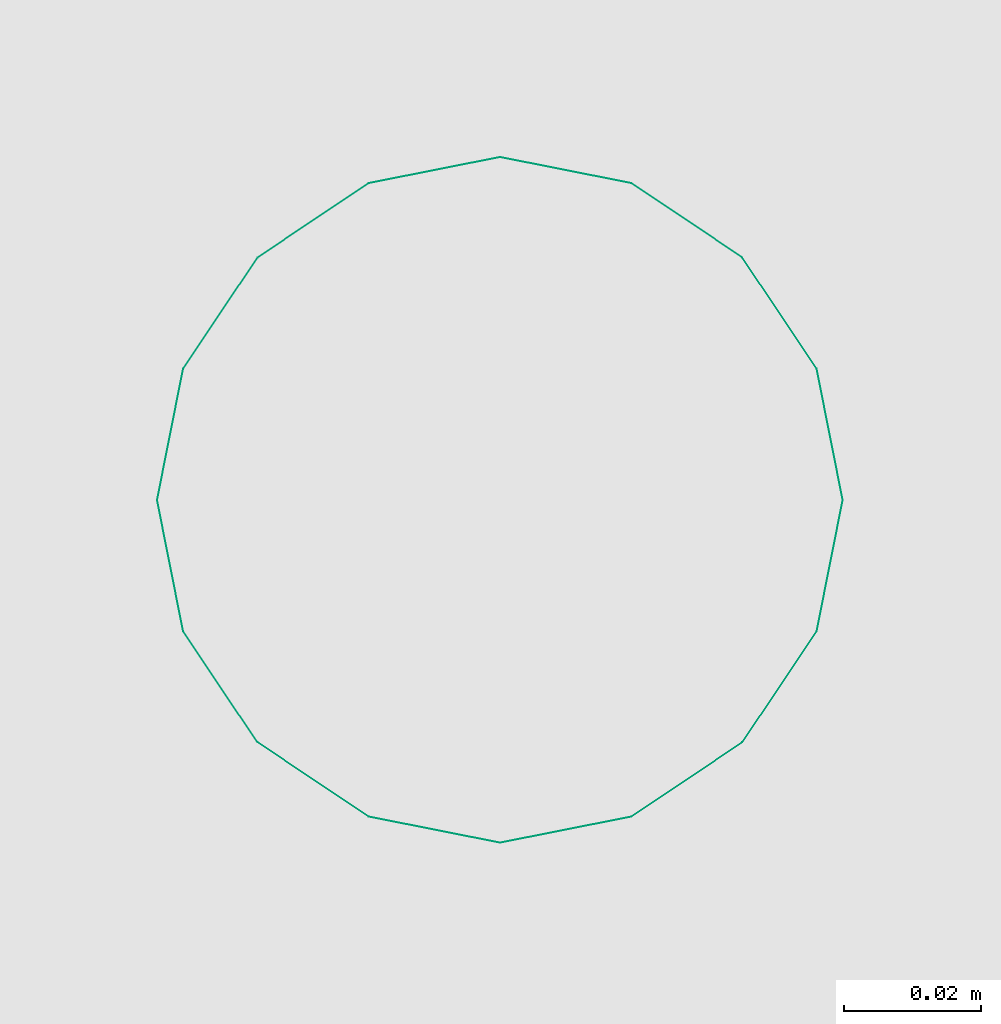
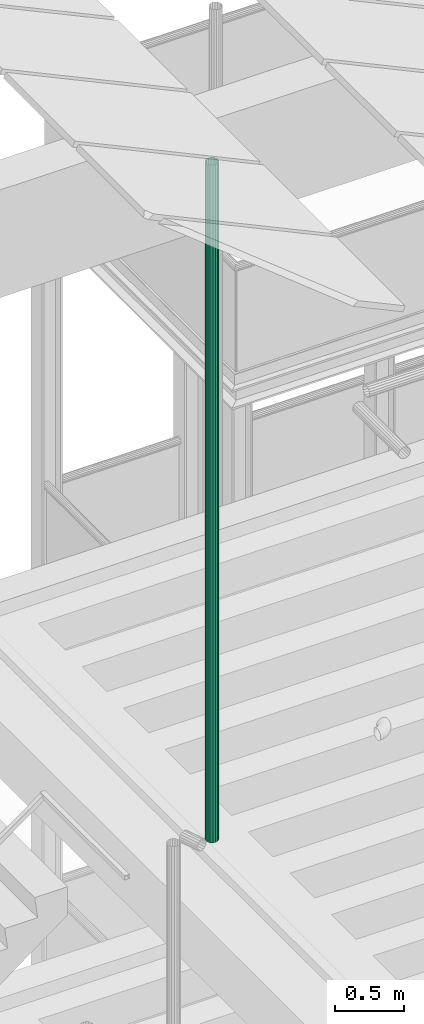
# One storey, part 59 of 108: 1 flow segment.
"""IFC2X3 building model written with IfcOpenShell, lengths in metres."""

from ifc_helpers import new_model, entity, si_unit, converted_unit, derived_unit, money_unit, direction, frame, origin_with_axes, place, context, subcontext, project, spatial, faceted_brep, material, type_object, element, save


model = new_model("IFC2X3")

# Units and contexts
model_context = context("Model", 3, precision=1e-05, world=origin_with_axes(), true_north=direction((0.0, 1.0)))
body_context = subcontext(model_context, "Body", "Model", "MODEL_VIEW", scale=1.0)
ifc_project = project(units=[si_unit("LENGTHUNIT", "METRE"), si_unit("AREAUNIT", "SQUARE_METRE"), si_unit("VOLUMEUNIT", "CUBIC_METRE"), si_unit("ABSORBEDDOSEUNIT", "GRAY"), si_unit("AMOUNTOFSUBSTANCEUNIT", "MOLE"), si_unit("DOSEEQUIVALENTUNIT", "SIEVERT"), si_unit("ELECTRICCAPACITANCEUNIT", "FARAD"), si_unit("ELECTRICCHARGEUNIT", "COULOMB"), si_unit("ELECTRICCONDUCTANCEUNIT", "SIEMENS"), si_unit("ELECTRICCURRENTUNIT", "AMPERE"), si_unit("ELECTRICRESISTANCEUNIT", "OHM"), si_unit("ELECTRICVOLTAGEUNIT", "VOLT"), si_unit("ENERGYUNIT", "JOULE"), si_unit("FORCEUNIT", "NEWTON"), si_unit("FREQUENCYUNIT", "HERTZ"), si_unit("ILLUMINANCEUNIT", "LUX"), si_unit("INDUCTANCEUNIT", "HENRY"), si_unit("LUMINOUSFLUXUNIT", "LUMEN"), si_unit("LUMINOUSINTENSITYUNIT", "CANDELA"), si_unit("MAGNETICFLUXDENSITYUNIT", "TESLA"), si_unit("MAGNETICFLUXUNIT", "WEBER"), si_unit("MASSUNIT", "GRAM"), converted_unit("PLANEANGLEUNIT", "degree", entity("IfcReal", 0.0174532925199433), si_unit("PLANEANGLEUNIT", "RADIAN"), dimensions=[0, 0, 0, 0, 0, 0, 0]), si_unit("POWERUNIT", "WATT"), si_unit("PRESSUREUNIT", "PASCAL"), si_unit("RADIOACTIVITYUNIT", "BECQUEREL"), si_unit("SOLIDANGLEUNIT", "STERADIAN"), si_unit("THERMODYNAMICTEMPERATUREUNIT", "KELVIN"), si_unit("TIMEUNIT", "SECOND"), derived_unit("ACCELERATIONUNIT", [(si_unit("LENGTHUNIT", "METRE"), 1), (si_unit("TIMEUNIT", "SECOND"), -2)]), derived_unit("ANGULARVELOCITYUNIT", [(converted_unit("PLANEANGLEUNIT", "degree", entity("IfcReal", 0.0174532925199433), si_unit("PLANEANGLEUNIT", "RADIAN"), dimensions=[0, 0, 0, 0, 0, 0, 0]), 1), (si_unit("TIMEUNIT", "SECOND"), -1)]), derived_unit("CURVATUREUNIT", [(converted_unit("PLANEANGLEUNIT", "degree", entity("IfcReal", 0.0174532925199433), si_unit("PLANEANGLEUNIT", "RADIAN"), dimensions=[0, 0, 0, 0, 0, 0, 0]), 1), (si_unit("LENGTHUNIT", "METRE"), -1)]), derived_unit("DYNAMICVISCOSITYUNIT", [(si_unit("PRESSUREUNIT", "PASCAL"), 1), (si_unit("TIMEUNIT", "SECOND"), 1)]), derived_unit("HEATFLUXDENSITYUNIT", [(si_unit("POWERUNIT", "WATT"), 1), (si_unit("LENGTHUNIT", "METRE"), -2)]), derived_unit("HEATINGVALUEUNIT", [(si_unit("ENERGYUNIT", "JOULE"), 1), (si_unit("MASSUNIT", "GRAM"), -1)]), derived_unit("INTEGERCOUNTRATEUNIT", [(si_unit("TIMEUNIT", "SECOND"), -1)]), derived_unit("IONCONCENTRATIONUNIT", [(si_unit("MASSUNIT", "GRAM"), 1), (si_unit("VOLUMEUNIT", "CUBIC_METRE"), -1)]), derived_unit("ISOTHERMALMOISTURECAPACITYUNIT", [(si_unit("VOLUMEUNIT", "CUBIC_METRE"), 1), (si_unit("MASSUNIT", "GRAM"), -1)]), derived_unit("KINEMATICVISCOSITYUNIT", [(si_unit("AREAUNIT", "SQUARE_METRE"), 1), (si_unit("TIMEUNIT", "SECOND"), -1)]), derived_unit("LINEARFORCEUNIT", [(si_unit("FORCEUNIT", "NEWTON"), 1), (si_unit("LENGTHUNIT", "METRE"), -1)]), derived_unit("LINEARMOMENTUNIT", [(si_unit("FORCEUNIT", "NEWTON"), 1), (si_unit("LENGTHUNIT", "METRE"), -1)]), derived_unit("LINEARSTIFFNESSUNIT", [(si_unit("FORCEUNIT", "NEWTON"), 1), (si_unit("LENGTHUNIT", "METRE"), -1)]), derived_unit("LINEARVELOCITYUNIT", [(si_unit("LENGTHUNIT", "METRE"), 1), (si_unit("TIMEUNIT", "SECOND"), -1)]), derived_unit("LUMINOUSINTENSITYDISTRIBUTIONUNIT", [(si_unit("LUMINOUSINTENSITYUNIT", "CANDELA"), 1), (si_unit("LUMINOUSFLUXUNIT", "LUMEN"), -1)]), derived_unit("MASSDENSITYUNIT", [(si_unit("MASSUNIT", "GRAM"), 1), (si_unit("VOLUMEUNIT", "CUBIC_METRE"), -1)]), derived_unit("MASSFLOWRATEUNIT", [(si_unit("MASSUNIT", "GRAM"), 1), (si_unit("TIMEUNIT", "SECOND"), -1)]), derived_unit("MASSPERLENGTHUNIT", [(si_unit("MASSUNIT", "GRAM"), 1), (si_unit("LENGTHUNIT", "METRE"), -1)]), derived_unit("MODULUSOFELASTICITYUNIT", [(si_unit("FORCEUNIT", "NEWTON"), 1), (si_unit("AREAUNIT", "SQUARE_METRE"), -1)]), derived_unit("MODULUSOFLINEARSUBGRADEREACTIONUNIT", [(si_unit("FORCEUNIT", "NEWTON"), 1), (si_unit("LENGTHUNIT", "METRE"), -2)]), derived_unit("MODULUSOFROTATIONALSUBGRADEREACTIONUNIT", [(si_unit("FORCEUNIT", "NEWTON"), 1), (si_unit("LENGTHUNIT", "METRE"), 1)]), derived_unit("MODULUSOFSUBGRADEREACTIONUNIT", [(si_unit("FORCEUNIT", "NEWTON"), 1), (si_unit("VOLUMEUNIT", "CUBIC_METRE"), -1)]), derived_unit("MOISTUREDIFFUSIVITYUNIT", [(si_unit("VOLUMEUNIT", "CUBIC_METRE"), 1), (si_unit("TIMEUNIT", "SECOND"), -1)]), derived_unit("MOLECULARWEIGHTUNIT", [(si_unit("MASSUNIT", "GRAM"), 1), (si_unit("AMOUNTOFSUBSTANCEUNIT", "MOLE"), -1)]), derived_unit("PLANARFORCEUNIT", [(si_unit("FORCEUNIT", "NEWTON"), 1), (si_unit("LENGTHUNIT", "METRE"), -2)]), derived_unit("ROTATIONALFREQUENCYUNIT", [(si_unit("TIMEUNIT", "SECOND"), -1)]), derived_unit("ROTATIONALMASSUNIT", [(si_unit("MASSUNIT", "GRAM"), 1), (si_unit("LENGTHUNIT", "METRE"), 2)]), derived_unit("ROTATIONALSTIFFNESSUNIT", [(si_unit("FORCEUNIT", "NEWTON"), 1), (si_unit("LENGTHUNIT", "METRE"), 1), (converted_unit("PLANEANGLEUNIT", "degree", entity("IfcReal", 0.0174532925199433), si_unit("PLANEANGLEUNIT", "RADIAN"), dimensions=[0, 0, 0, 0, 0, 0, 0]), -1)]), derived_unit("SECTIONAREAINTEGRALUNIT", [(si_unit("LENGTHUNIT", "METRE"), 5)]), derived_unit("SECTIONMODULUSUNIT", [(si_unit("LENGTHUNIT", "METRE"), 3)]), derived_unit("SHEARMODULUSUNIT", [(si_unit("FORCEUNIT", "NEWTON"), 1), (si_unit("AREAUNIT", "SQUARE_METRE"), -1)]), derived_unit("SOUNDPOWERUNIT", [(si_unit("ENERGYUNIT", "JOULE"), 1), (si_unit("TIMEUNIT", "SECOND"), -1)]), derived_unit("SPECIFICHEATCAPACITYUNIT", [(si_unit("FORCEUNIT", "NEWTON"), 1), (si_unit("MASSUNIT", "GRAM"), -1), (si_unit("THERMODYNAMICTEMPERATUREUNIT", "KELVIN"), -1)]), derived_unit("TEMPERATUREGRADIENTUNIT", [(si_unit("THERMODYNAMICTEMPERATUREUNIT", "KELVIN"), 1), (si_unit("LENGTHUNIT", "METRE"), -1)]), derived_unit("THERMALADMITTANCEUNIT", [(si_unit("POWERUNIT", "WATT"), 1), (si_unit("AREAUNIT", "SQUARE_METRE"), -1), (si_unit("THERMODYNAMICTEMPERATUREUNIT", "KELVIN"), -1)]), derived_unit("THERMALCONDUCTANCEUNIT", [(si_unit("POWERUNIT", "WATT"), 1), (si_unit("LENGTHUNIT", "METRE"), -1), (si_unit("THERMODYNAMICTEMPERATUREUNIT", "KELVIN"), -1)]), derived_unit("THERMALEXPANSIONCOEFFICIENTUNIT", [(si_unit("THERMODYNAMICTEMPERATUREUNIT", "KELVIN"), -1)]), derived_unit("THERMALRESISTANCEUNIT", [(si_unit("AREAUNIT", "SQUARE_METRE"), 1), (si_unit("POWERUNIT", "WATT"), -1)]), derived_unit("THERMALTRANSMITTANCEUNIT", [(si_unit("POWERUNIT", "WATT"), 1), (si_unit("AREAUNIT", "SQUARE_METRE"), -1), (si_unit("THERMODYNAMICTEMPERATUREUNIT", "KELVIN"), -1)]), derived_unit("TORQUEUNIT", [(si_unit("FORCEUNIT", "NEWTON"), 1), (si_unit("LENGTHUNIT", "METRE"), 1)]), derived_unit("VAPORPERMEABILITYUNIT", [(si_unit("MASSUNIT", "GRAM"), 1), (si_unit("TIMEUNIT", "SECOND"), -1)]), derived_unit("VOLUMETRICFLOWRATEUNIT", [(si_unit("VOLUMEUNIT", "CUBIC_METRE"), 1), (si_unit("TIMEUNIT", "SECOND"), -1)]), derived_unit("WARPINGCONSTANTUNIT", [(si_unit("LENGTHUNIT", "METRE"), 6)]), derived_unit("WARPINGMOMENTUNIT", [(si_unit("FORCEUNIT", "NEWTON"), 1), (si_unit("LENGTHUNIT", "METRE"), 2)]), money_unit("GBP")], contexts=[model_context])

# Site, building, storey
site_placement = place(None, origin_with_axes())
site = spatial("IfcSite", under=ifc_project, at=site_placement, Name="Site", CompositionType="ELEMENT")
building_placement = place(site_placement, origin_with_axes())
building = spatial("IfcBuilding", under=site, at=building_placement, Name="Building01", CompositionType="ELEMENT")
storey_placement = place(building_placement, origin_with_axes())
storey = spatial("IfcBuildingStorey", under=building, at=storey_placement, Name="GF", CompositionType="ELEMENT", Elevation=0.0)

# Flow segment
ifc_material = material(Name="M_BSUK_ColdWater")
pipe_segment_type = type_object("IfcPipeSegmentType", Name="M-BmpStraightpipe-DefaultPipe", PredefinedType="RIGIDSEGMENT")
flow_segment_placement = place(storey_placement, frame((16.124326, 7.664669, 20.861575), z_axis=(0.0, -1.0, 0.0), x_axis=(0.0, 0.0, -1.0)))
element("IfcFlowSegment", 1, at=flow_segment_placement, inside=storey, type_object=pipe_segment_type, material=ifc_material, Name="M-BmpStraightpipe-DefaultPipe", ObjectType="M-BmpStraightpipe-DefaultPipe", context=body_context, shape_type="Brep", body=[
    faceted_brep([(5.974074, 0.0, -0.05), (0.0, 0.0, -0.05), (0.0, 0.019134, -0.046194), (5.974074, 0.019134, -0.046194), (0.0, 0.035355, -0.035355), (5.974074, 0.035355, -0.035355), (0.0, 0.046194, -0.019134), (5.974074, 0.046194, -0.019134), (0.0, 0.05, 0.0), (5.974074, 0.05, 0.0), (0.0, 0.046194, 0.019134), (5.974074, 0.046194, 0.019134), (0.0, 0.035355, 0.035355), (5.974074, 0.035355, 0.035355), (0.0, 0.019134, 0.046194), (5.974074, 0.019134, 0.046194), (0.0, 0.0, 0.05), (5.974074, 0.0, 0.05), (0.0, -0.019134, 0.046194), (5.974074, -0.019134, 0.046194), (0.0, -0.035355, 0.035355), (5.974074, -0.035355, 0.035355), (0.0, -0.046194, 0.019134), (5.974074, -0.046194, 0.019134), (0.0, -0.05, 0.0), (5.974074, -0.05, 0.0), (0.0, -0.046194, -0.019134), (5.974074, -0.046194, -0.019134), (0.0, -0.035355, -0.035355), (5.974074, -0.035355, -0.035355), (0.0, -0.019134, -0.046194), (5.974074, -0.019134, -0.046194)], [[[0, 1, 2, 3]], [[3, 2, 4, 5]], [[5, 4, 6, 7]], [[7, 6, 8, 9]], [[9, 8, 10, 11]], [[11, 10, 12, 13]], [[13, 12, 14, 15]], [[15, 14, 16, 17]], [[17, 16, 18, 19]], [[19, 18, 20, 21]], [[21, 20, 22, 23]], [[23, 22, 24, 25]], [[25, 24, 26, 27]], [[27, 26, 28, 29]], [[29, 28, 30, 31]], [[31, 30, 1, 0]]]),
])

save(model, "model.ifc")
